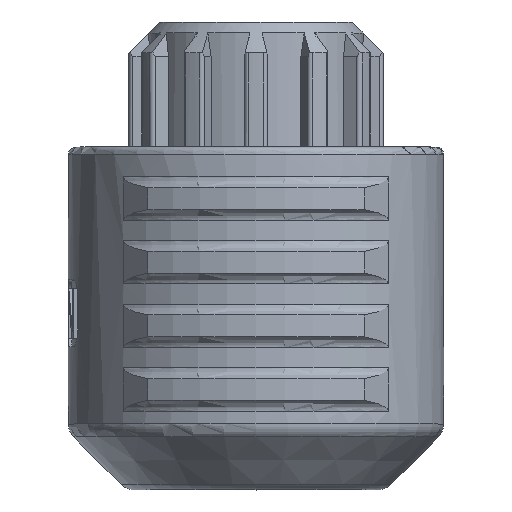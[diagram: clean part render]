
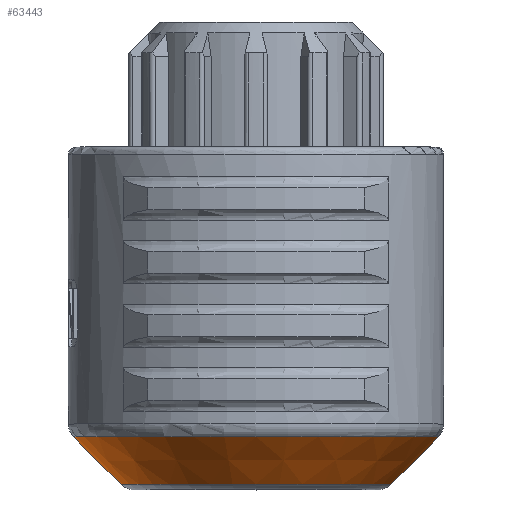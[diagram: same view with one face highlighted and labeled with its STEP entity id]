
A CAD part, top view. The second image highlights one B-rep face of the part: STEP entity #63443.
In plain terms, the highlighted conical face has half-angle 45 degrees and reference radius 8.725 mm.
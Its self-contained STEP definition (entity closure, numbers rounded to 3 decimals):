
#13913=DIRECTION('',(0.707,0.707,0.));
#13914=VECTOR('',#13913,3.697);
#13915=CARTESIAN_POINT('',(7.418,-10.327,
20.));
#13916=LINE('',#13915,#13914);
#14279=CARTESIAN_POINT('',(0.,-7.713,
20.));
#14280=DIRECTION('',(0.,1.,0.));
#14281=DIRECTION('',(-1.,0.,0.));
#14282=AXIS2_PLACEMENT_3D('',#14279,#14280,#14281);
#14284=CARTESIAN_POINT('',(0.,-10.327,
20.));
#14285=DIRECTION('',(0.,-1.,0.));
#14286=DIRECTION('',(1.,0.,0.));
#14287=AXIS2_PLACEMENT_3D('',#14284,#14285,#14286);
#14289=DIRECTION('',(-0.707,0.707,0.));
#14290=VECTOR('',#14289,3.697);
#14291=CARTESIAN_POINT('',(-7.418,-10.327,
20.));
#14292=LINE('',#14291,#14290);
#48589=CARTESIAN_POINT('',(-7.418,-10.327,
20.));
#48590=CARTESIAN_POINT('',(-10.032,-7.713,
20.));
#48591=VERTEX_POINT('',#48589);
#48592=VERTEX_POINT('',#48590);
#48593=CARTESIAN_POINT('',(7.418,-10.327,
20.));
#48594=CARTESIAN_POINT('',(10.032,-7.713,
20.));
#48595=VERTEX_POINT('',#48593);
#48596=VERTEX_POINT('',#48594);
#63431=CARTESIAN_POINT('',(0.,-9.02,
20.));
#63432=DIRECTION('',(0.,1.,0.));
#63433=DIRECTION('',(1.,0.,0.));
#63434=AXIS2_PLACEMENT_3D('',#63431,#63432,#63433);
#63435=CONICAL_SURFACE('',#63434,8.725,45.);
#63436=ORIENTED_EDGE('',*,*,#63418,.T.);
#63437=ORIENTED_EDGE('',*,*,#62711,.F.);
#63439=ORIENTED_EDGE('',*,*,#63438,.T.);
#63440=ORIENTED_EDGE('',*,*,#62707,.T.);
#63441=EDGE_LOOP('',(#63436,#63437,#63439,#63440));
#63442=FACE_OUTER_BOUND('',#63441,.F.);
#63443=ADVANCED_FACE('',(#63442),#63435,.T.);
#14283=CIRCLE('',#14282,10.032);
#14288=CIRCLE('',#14287,7.418);
#62707=EDGE_CURVE('',#48591,#48592,#14292,.T.);
#62711=EDGE_CURVE('',#48595,#48596,#13916,.T.);
#63418=EDGE_CURVE('',#48592,#48596,#14283,.T.);
#63438=EDGE_CURVE('',#48595,#48591,#14288,.T.);
